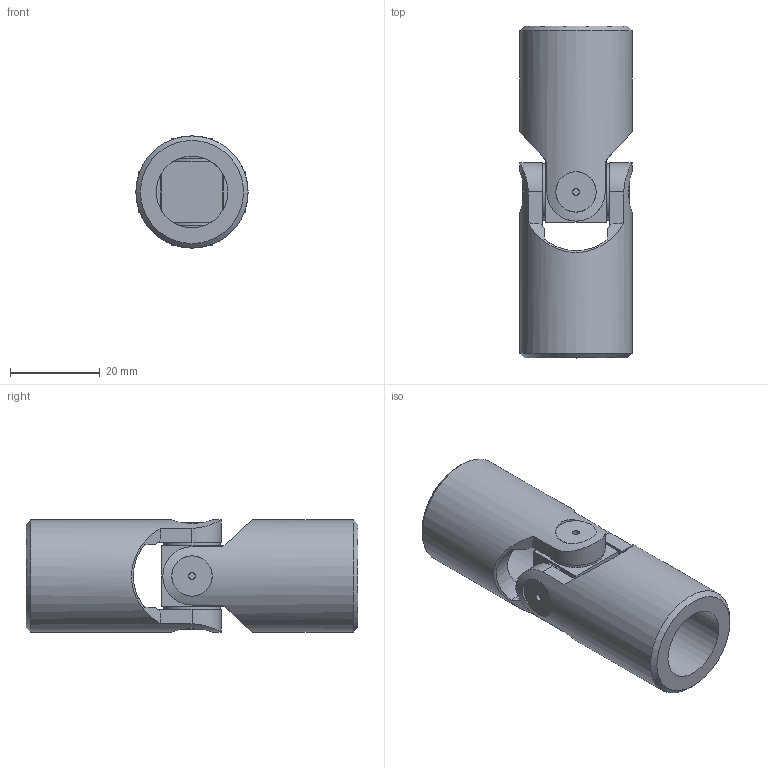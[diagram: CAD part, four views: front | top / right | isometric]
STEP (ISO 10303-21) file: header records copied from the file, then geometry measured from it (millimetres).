
FILE_DESCRIPTION(/* description */ ('EXTENSIBLE TRANSIMISSIONS Series G DIN 808 -2-'),/* implementation_level */ '2;1');
FILE_NAME(/* name */ '\\SRV2016\Societa\Stefano\Disegni 3D\Dis. Clienti\0000Catalogo 3D\01Singoli G-GB\1GB-00_SGBS1600.stp',/* time_stamp */ '2021-11-10T14:45:19+01:00',/* author */ ('acquisti'),/* organization */ ('MARIOFERRI'),/* preprocessor_version */ 'ST-DEVELOPER v15.6',/* originating_system */ 'Autodesk Inventor 2015',/* authorisation */ '');
FILE_SCHEMA (('AUTOMOTIVE_DESIGN { 1 0 10303 214 3 1 1 }'));
Length unit declared in the file: millimetre
Products named in the file (3): 04G SFE; 1GB MOS; Assieme6
Assembly tree (3 placements, depth 2):
  Assieme6
    04G SFE
    1GB MOS  x2
Bounding box: 25 x 74 x 25 mm (x, y, z)
Volume: 21256.4 mm3; surface area: 11029.8 mm2
Topology: 3 solids, 3 shells, 86 faces, 208 edges, 136 vertices
Faces by surface type: plane 40, cylinder 32, cone 10, torus 4
Full cylindrical faces by diameter (mm): 1.5 x4, 12.5 x4, 16 x2, 25 x2
Entity records: 1615 total; most frequent: CARTESIAN_POINT 486, DIRECTION 220, ORIENTED_EDGE 210, EDGE_CURVE 105, AXIS2_PLACEMENT_3D 95, VERTEX_POINT 75, EDGE_LOOP 68, FACE_OUTER_BOUND 50
